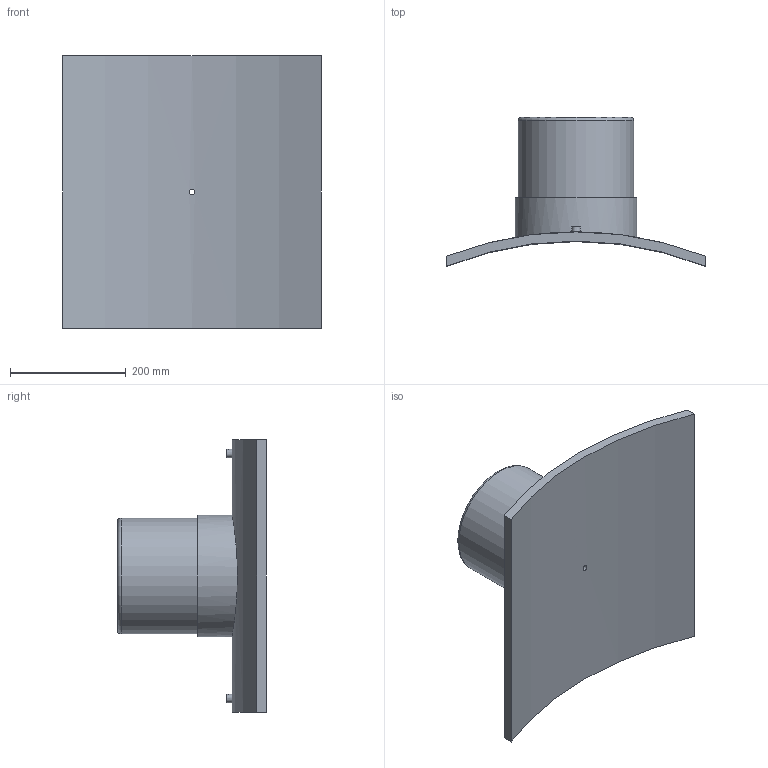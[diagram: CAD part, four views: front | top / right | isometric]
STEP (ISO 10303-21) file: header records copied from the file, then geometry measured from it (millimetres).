
FILE_DESCRIPTION(/* description */ ('PLASSON BRANCH SADDLE 1200x200'),/* implementation_level */ '2;1');
FILE_NAME(/* name */ 'C:\Dropbox\KIMPROJECTS-Inventor 2019\99-16-3568-Processing\ElectroFusion Fittings\495803\stp\4958031200200T.stp',/* time_stamp */ '2024-04-04T11:48:04+02:00',/* author */ ('KIM'),/* organization */ (''),/* preprocessor_version */ 'ST-DEVELOPER v17.2',/* originating_system */ 'Autodesk Inventor 2019',/* authorisation */ '');
FILE_SCHEMA (('AUTOMOTIVE_DESIGN { 1 0 10303 214 3 1 1 }'));
Length unit declared in the file: millimetre
Products named in the file (1): 4958031200200T
Bounding box: 447 x 257.18 x 470 mm (x, y, z)
Volume: 5928627.8 mm3; surface area: 698456.1 mm2
Topology: 1 solids, 1 shells, 29 faces, 60 edges, 43 vertices
Faces by surface type: plane 13, cylinder 12, torus 2, cone 2
Full cylindrical faces by diameter (mm): 4 x2, 9.6 x1, 10 x2, 16 x1, 160 x1, 200 x1, 210 x1
Entity records: 1086 total; most frequent: CARTESIAN_POINT 400, DIRECTION 139, ORIENTED_EDGE 120, EDGE_CURVE 60, AXIS2_PLACEMENT_3D 60, VERTEX_POINT 43, EDGE_LOOP 41, CIRCLE 30
